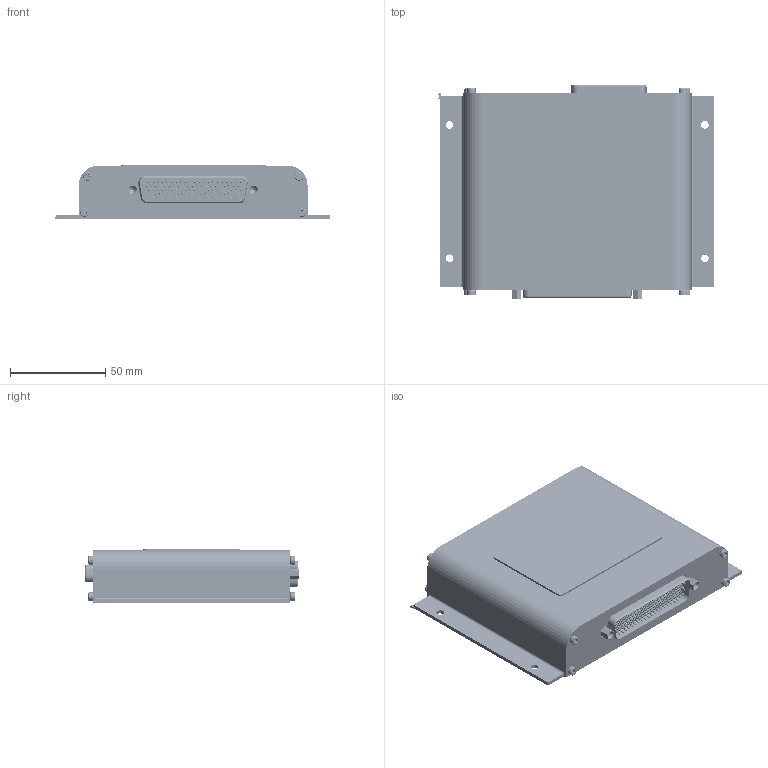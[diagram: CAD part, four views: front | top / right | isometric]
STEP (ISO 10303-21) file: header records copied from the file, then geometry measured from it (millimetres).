
FILE_DESCRIPTION(('FreeCAD Model'),'2;1');
FILE_NAME('Open CASCADE Shape Model','2021-06-06T14:17:19',('Author'),( ''),'Open CASCADE STEP processor 7.5','FreeCAD','Unknown');
FILE_SCHEMA(('AUTOMOTIVE_DESIGN { 1 0 10303 214 1 1 1 1 }'));
Length unit declared in the file: millimetre
Products named in the file (20): Unnamed; -01 EXTRUSION; Open CASCADE STEP translator 6.9 1; DD104M4R70T2S_AA; SOLID474; -02 FRONT PLATE; DD44M4R700S-AA; -04 BACK PLATE; PLATE SCREWS; 92290A060; 92290A061; 92290A062; 92290A063; 92290A064; 92290A065; 92290A066; 92290A067; -10 PLACARD; SOLID478
Assembly tree (26 placements, depth 5):
  Unnamed
    -01 EXTRUSION
    Open CASCADE STEP translator 6.9 1
      DD104M4R70T2S_AA
        SOLID474
    -02 FRONT PLATE
    DD44M4R700S-AA
    -04 BACK PLATE
    PLATE SCREWS
      92290A060
      92290A061
      92290A062
      92290A063
      92290A064
      92290A065
      92290A066
      92290A067
    -10 PLACARD
    Unnamed
      -10 PLACARD
      PLATE SCREWS
        92290A060
        92290A061
        92290A062
        92290A063
        92290A064
        92290A065
        92290A066
        92290A067
      -04 BACK PLATE
      DD44M4R700S-AA
      -02 FRONT PLATE
      Open CASCADE STEP translator 6.9 1
        DD104M4R70T2S_AA
          SOLID474
      -01 EXTRUSION
    SOLID478
Bounding box: 145.25 x 112.25 x 28.6 mm (x, y, z)
Volume: 183153 mm3; surface area: 221842.7 mm2
Topology: 29 solids, 47 shells, 17846 faces, 44494 edges, 27672 vertices
Faces by surface type: cylinder 8034, plane 4939, cone 2334, bspline 1067, torus 844, sphere 592, revolution 36
Full cylindrical faces by diameter (mm): 2.5 x4, 3.15 x8, 3.175 x8, 3.2 x8, 4 x8
Entity records: 682726 total; most frequent: CARTESIAN_POINT 243989, DIRECTION 82197, ORIENTED_EDGE 44074, PCURVE 44074, DEFINITIONAL_REPRESENTATION 44074, LINE 42670, VECTOR 42670, EDGE_CURVE 22037
